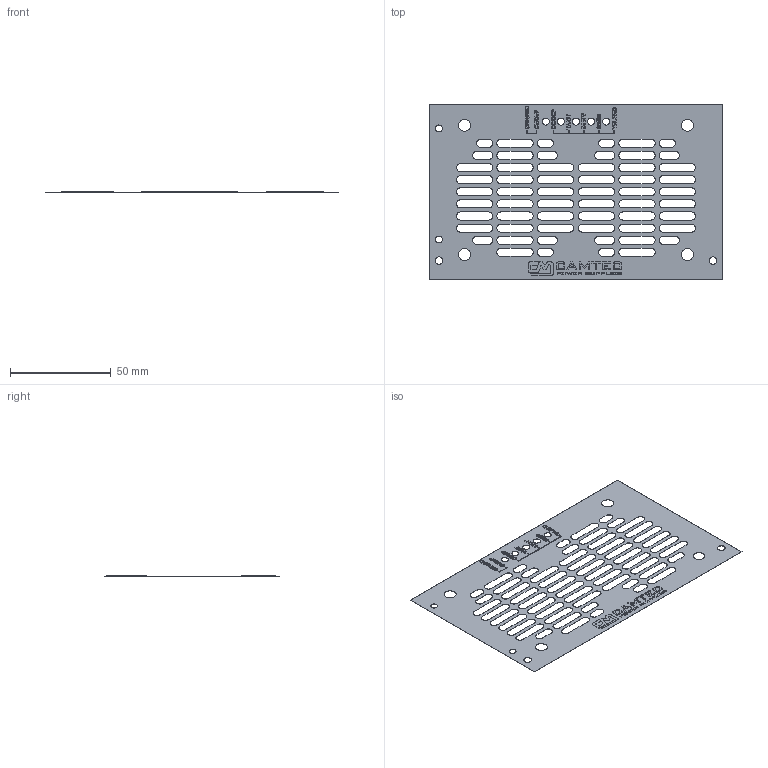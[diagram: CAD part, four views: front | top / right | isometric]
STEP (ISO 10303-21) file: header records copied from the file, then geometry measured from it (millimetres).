
FILE_DESCRIPTION(/* description */ ('','CAx-IF Rec.Pracs.---Representation and Presentation of Product Manufacturing Information (PMI)---4.0---2014-10-13'),/* implementation_level */ '2;1');
FILE_NAME(/* name */ 'E:\CAMTEC_2020_Pack and Go\Subrack_2U\2081099001CA.stp',/* time_stamp */ '2020-09-21T15:31:23+02:00',/* author */ ('rryba'),/* organization */ (''),/* preprocessor_version */ 'ST-DEVELOPER v18.1',/* originating_system */ 'Autodesk Inventor 2021',/* authorisation */ '');
FILE_SCHEMA (('AP242_MANAGED_MODEL_BASED_3D_ENGINEERING_MIM_LF { 1 0 10303 442 1 1 4 }'));
Length unit declared in the file: millimetre
Products named in the file (6): 2081099001 (Folie bedruckt Front Plate 2U ); 2081099001; CAMTEC Logo 3D; Aufkleber_CAMTEC Logobild; Aufkleber_CAMTEC Wortbild1; Aufkleber_CAMTEC Wortbild2
Assembly tree (5 placements, depth 3):
  2081099001 (Folie bedruckt Front Plate 2U )
    2081099001
    CAMTEC Logo 3D
      Aufkleber_CAMTEC Logobild
      Aufkleber_CAMTEC Wortbild1
      Aufkleber_CAMTEC Wortbild2
Bounding box: 145.6 x 87 x 0.2 mm (x, y, z)
Volume: 914.8 mm3; surface area: 18556.3 mm2
Topology: 21 solids, 21 shells, 1110 faces, 3379 edges, 2698 vertices
Faces by surface type: plane 748, bspline 217, cylinder 145
Full cylindrical faces by diameter (mm): 3.4 x2, 3.5 x5, 3.8 x2, 5.9 x4
Entity records: 39681 total; most frequent: CARTESIAN_POINT 9951, ORIENTED_EDGE 6060, DIRECTION 5000, EDGE_CURVE 3030, LINE 2306, VECTOR 2306, VERTEX_POINT 2020, AXIS2_PLACEMENT_3D 1347
